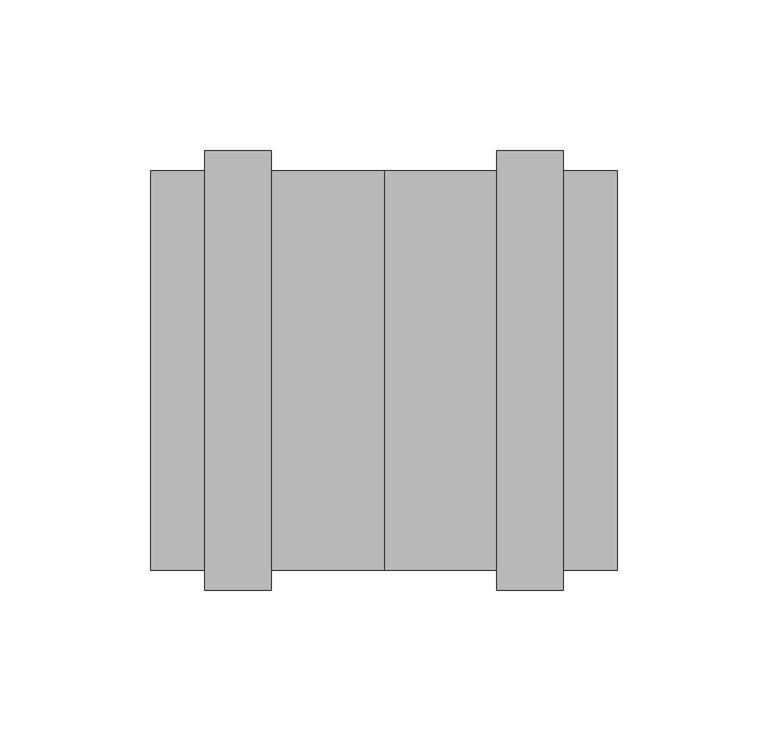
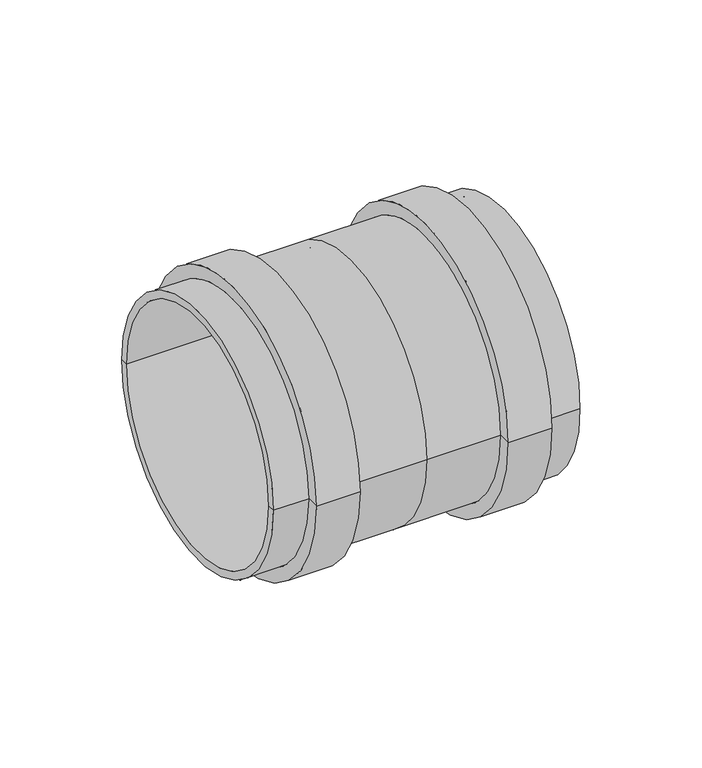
"""IFC4 building model written with IfcOpenShell, lengths in millimetres: pipe fitting geometry, OSMA_KG2000_PPKGMM : Spojka dvouhrdlá."""

from ifc_helpers import new_model, si_unit, frame, origin, place, context, project, spatial, polyline, circle_curve, source, transform, mapped, element, save
from ifc_brep_helpers import plane_surface, cylinder_surface, revolved_surface, advanced_brep


def pipe_fitting_1da4e5e7(model_context):
    return source(origin(), model_context, "Body", "AdvancedBrep", [
        advanced_brep(
        [(-77.5, -62.5, 0.0), (-77.5, 62.5, 0.0), (-77.5, 66.4, 0.0), (-77.5, -66.4, 0.0), (-37.5, -73.0, 0.0), (-37.5, 73.0, 0.0), (-37.5, 66.4, 0.0), (-37.5, -66.4, 0.0), (-59.5, -73.0, 0.0), (-59.5, 73.0, 0.0), (-59.5, -66.4, 0.0), (-59.5, 66.4, 0.0), (0.0, 66.4, 0.0), (0.0, -66.4, 0.0), (59.5, -73.0, 0.0), (59.5, 73.0, 0.0), (59.5, 66.4, 0.0), (59.5, -66.4, 0.0), (37.5, -73.0, 0.0), (37.5, 73.0, 0.0), (37.5, -66.4, 0.0), (37.5, 66.4, 0.0), (77.5, 66.4, 0.0), (77.5, -66.4, 0.0), (77.5, 62.5, 0.0), (77.5, -62.5, 0.0), (0.0, -62.5, 0.0), (0.0, 62.5, 0.0)],
        [
            (0, 1, circle_curve(frame((-77.5, 0.0, 0.0), z_axis=(1.0, 0.0, 0.0), x_axis=(0.0, 1.0, 0.0)), 62.5)),
            (1, 2),
            (2, 3, circle_curve(frame((-77.5, 0.0, 0.0), z_axis=(-1.0, 0.0, 0.0), x_axis=(0.0, 1.0, 0.0)), 66.4)),
            (3, 0),
            (1, 0, circle_curve(frame((-77.5, 0.0, 0.0), z_axis=(1.0, 0.0, 0.0), x_axis=(0.0, 1.0, 0.0)), 62.5)),
            (3, 2, circle_curve(frame((-77.5, 0.0, 0.0), z_axis=(-1.0, 0.0, 0.0), x_axis=(0.0, 1.0, 0.0)), 66.4)),
            (4, 5, circle_curve(frame((-37.5, 0.0, 0.0), z_axis=(1.0, 0.0, 0.0), x_axis=(0.0, 1.0, 0.0)), 73.0)),
            (5, 6),
            (6, 7, circle_curve(frame((-37.5, 0.0, 0.0), z_axis=(-1.0, 0.0, 0.0), x_axis=(0.0, 1.0, 0.0)), 66.4)),
            (7, 4),
            (5, 4, circle_curve(frame((-37.5, 0.0, 0.0), z_axis=(1.0, 0.0, 0.0), x_axis=(0.0, 1.0, 0.0)), 73.0)),
            (7, 6, circle_curve(frame((-37.5, 0.0, 0.0), z_axis=(-1.0, 0.0, 0.0), x_axis=(0.0, 1.0, 0.0)), 66.4)),
            (4, 8),
            (8, 9, circle_curve(frame((-59.5, 0.0, 0.0), z_axis=(1.0, 0.0, 0.0), x_axis=(0.0, 1.0, 0.0)), 73.0)),
            (9, 5),
            (9, 8, circle_curve(frame((-59.5, 0.0, 0.0), z_axis=(1.0, 0.0, 0.0), x_axis=(0.0, 1.0, 0.0)), 73.0)),
            (8, 10),
            (10, 11, circle_curve(frame((-59.5, 0.0, 0.0), z_axis=(1.0, 0.0, 0.0), x_axis=(0.0, 1.0, 0.0)), 66.4)),
            (11, 9),
            (11, 10, circle_curve(frame((-59.5, 0.0, 0.0), z_axis=(1.0, 0.0, 0.0), x_axis=(0.0, 1.0, 0.0)), 66.4)),
            (2, 11),
            (10, 3),
            (6, 12),
            (12, 13, circle_curve(frame((0.0, 0.0, 0.0), z_axis=(-1.0, 0.0, 0.0), x_axis=(0.0, 1.0, 0.0)), 66.4)),
            (13, 7),
            (13, 12, circle_curve(frame((0.0, 0.0, 0.0), z_axis=(-1.0, 0.0, 0.0), x_axis=(0.0, 1.0, 0.0)), 66.4)),
            (14, 15, circle_curve(frame((59.5, 0.0, 0.0), z_axis=(1.0, 0.0, 0.0), x_axis=(0.0, 1.0, 0.0)), 73.0)),
            (15, 16),
            (16, 17, circle_curve(frame((59.5, 0.0, 0.0), z_axis=(-1.0, 0.0, 0.0), x_axis=(0.0, 1.0, 0.0)), 66.4)),
            (17, 14),
            (15, 14, circle_curve(frame((59.5, 0.0, 0.0), z_axis=(1.0, 0.0, 0.0), x_axis=(0.0, 1.0, 0.0)), 73.0)),
            (17, 16, circle_curve(frame((59.5, 0.0, 0.0), z_axis=(-1.0, 0.0, 0.0), x_axis=(0.0, 1.0, 0.0)), 66.4)),
            (14, 18),
            (18, 19, circle_curve(frame((37.5, 0.0, 0.0), z_axis=(1.0, 0.0, 0.0), x_axis=(0.0, 1.0, 0.0)), 73.0)),
            (19, 15),
            (19, 18, circle_curve(frame((37.5, 0.0, 0.0), z_axis=(1.0, 0.0, 0.0), x_axis=(0.0, 1.0, 0.0)), 73.0)),
            (18, 20),
            (20, 21, circle_curve(frame((37.5, 0.0, 0.0), z_axis=(1.0, 0.0, 0.0), x_axis=(0.0, 1.0, 0.0)), 66.4)),
            (21, 19),
            (21, 20, circle_curve(frame((37.5, 0.0, 0.0), z_axis=(1.0, 0.0, 0.0), x_axis=(0.0, 1.0, 0.0)), 66.4)),
            (20, 13),
            (12, 21),
            (16, 22),
            (22, 23, circle_curve(frame((77.5, 0.0, 0.0), z_axis=(-1.0, 0.0, 0.0), x_axis=(0.0, 1.0, 0.0)), 66.4)),
            (23, 17),
            (23, 22, circle_curve(frame((77.5, 0.0, 0.0), z_axis=(-1.0, 0.0, 0.0), x_axis=(0.0, 1.0, 0.0)), 66.4)),
            (22, 24),
            (24, 25, circle_curve(frame((77.5, 0.0, 0.0), z_axis=(-1.0, 0.0, 0.0), x_axis=(0.0, 1.0, 0.0)), 62.5)),
            (25, 23),
            (25, 24, circle_curve(frame((77.5, 0.0, 0.0), z_axis=(-1.0, 0.0, 0.0), x_axis=(0.0, 1.0, 0.0)), 62.5)),
            (0, 26),
            (26, 27, circle_curve(frame((0.0, 0.0, 0.0), z_axis=(1.0, 0.0, 0.0), x_axis=(0.0, 1.0, 0.0)), 62.5)),
            (27, 1),
            (27, 26, circle_curve(frame((0.0, 0.0, 0.0), z_axis=(1.0, 0.0, 0.0), x_axis=(0.0, 1.0, 0.0)), 62.5)),
            (24, 27),
            (26, 25),
        ],
        [
            plane_surface(frame((-77.5, 0.0, 0.0), z_axis=(-1.0, 0.0, 0.0), x_axis=(0.0, 1.0, 0.0))),
            plane_surface(frame((-37.5, 0.0, 0.0), z_axis=(1.0, 0.0, 0.0), x_axis=(0.0, 1.0, 0.0))),
            cylinder_surface(frame((278.0, 0.0, 0.0), z_axis=(-1.0, 0.0, 0.0), x_axis=(0.0, 1.0, 0.0)), 73.0),
            plane_surface(frame((-59.5, 0.0, 0.0), z_axis=(-1.0, 0.0, 0.0), x_axis=(0.0, 1.0, 0.0))),
            cylinder_surface(frame((278.0, 0.0, 0.0), z_axis=(-1.0, 0.0, 0.0), x_axis=(0.0, 1.0, 0.0)), 66.4),
            plane_surface(frame((59.5, 0.0, 0.0), z_axis=(1.0, 0.0, 0.0), x_axis=(0.0, 1.0, 0.0))),
            plane_surface(frame((37.5, 0.0, 0.0), z_axis=(-1.0, 0.0, 0.0), x_axis=(0.0, 1.0, 0.0))),
            plane_surface(frame((77.5, 0.0, 0.0), z_axis=(1.0, 0.0, 0.0), x_axis=(0.0, 1.0, 0.0))),
            revolved_surface(polyline([(-77.5, 62.5, 0.0), (0.0, 62.5, 0.0)]), (278.0, 0.0, 0.0), (-1.0, 0.0, 0.0)),
            revolved_surface(polyline([(0.0, 62.5, 0.0), (77.5, 62.5, 0.0)]), (278.0, 0.0, 0.0), (-1.0, 0.0, 0.0)),
        ],
        [
            (0, [[1, 2, 3, 4]]),
            (0, [[-2, 5, -4, 6]]),
            (1, [[7, 8, 9, 10]]),
            (1, [[-8, 11, -10, 12]]),
            (2, [[-7, 13, 14, 15]]),
            (2, [[-11, -15, 16, -13]]),
            (3, [[-14, 17, 18, 19]]),
            (3, [[-16, -19, 20, -17]]),
            (4, [[-3, 21, -18, 22]]),
            (4, [[-6, -22, -20, -21]]),
            (4, [[-9, 23, 24, 25]]),
            (4, [[-12, -25, 26, -23]]),
            (5, [[27, 28, 29, 30]]),
            (5, [[-28, 31, -30, 32]]),
            (2, [[-27, 33, 34, 35]]),
            (2, [[-31, -35, 36, -33]]),
            (6, [[-34, 37, 38, 39]]),
            (6, [[-36, -39, 40, -37]]),
            (4, [[-38, 41, -24, 42]]),
            (4, [[-40, -42, -26, -41]]),
            (4, [[-29, 43, 44, 45]]),
            (4, [[-32, -45, 46, -43]]),
            (7, [[-44, 47, 48, 49]]),
            (7, [[-46, -49, 50, -47]]),
            (8, [[-1, 51, 52, 53]]),
            (8, [[-5, -53, 54, -51]]),
            (9, [[-48, 55, -52, 56]]),
            (9, [[-50, -56, -54, -55]]),
        ],
    ),
    ])


if __name__ == "__main__":
    model = new_model("IFC4")
    model_context = context("Model", 3, world=origin())
    ifc_project = project(units=[si_unit("LENGTHUNIT", "METRE", prefix="MILLI")], contexts=[model_context])
    site = spatial("IfcSite", under=ifc_project)
    building = spatial("IfcBuilding", under=site)
    placement = place(None, origin())
    pipe_fitting_shape = pipe_fitting_1da4e5e7(model_context)
    element("IfcPipeFitting", 1, ObjectType="OSMA_KG2000_PPKGMM : Spojka dvouhrdlá", at=placement, inside=building, context=model_context, shape_type="MappedRepresentation", body=[
        mapped(pipe_fitting_shape, transform((0.0, 0.0, 0.0), x_axis=(1.0, 0.0, 0.0), y_axis=(0.0, 1.0, 0.0), z_axis=(0.0, 0.0, 1.0))),
    ])
    save(model, "model.ifc")
